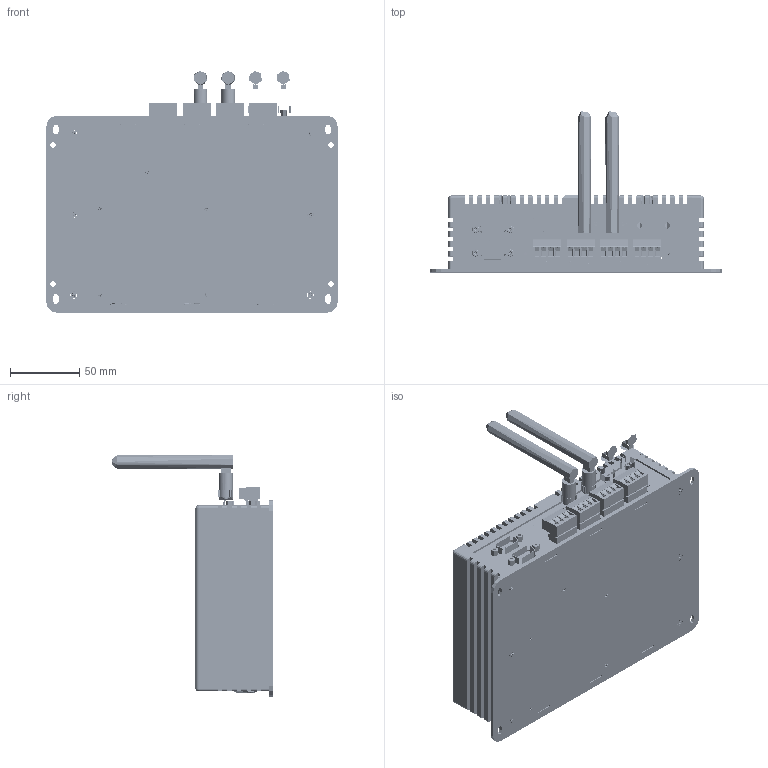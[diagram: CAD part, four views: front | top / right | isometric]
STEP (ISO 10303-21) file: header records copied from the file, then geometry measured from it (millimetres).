
FILE_DESCRIPTION(('STEP AP214'), '1');
FILE_NAME('EMB-PC-Mini', '', ('UNSPECIFIED'), ('UNSPECIFIED'), 'C3D Converter', 'C3D Toolkit', '');
FILE_SCHEMA(('AUTOMOTIVE_DESIGN { 1 0 10303 214 3 1 1}'));
Length unit declared in the file: millimetre
Bounding box: 210 x 116.03 x 174.19 mm (x, y, z)
Volume: 37743.7 mm3; surface area: 466136.1 mm2
Topology: 13 solids, 24 shells, 22382 faces, 61958 edges, 40185 vertices
Faces by surface type: plane 14778, cylinder 3699, extrusion 2760, bspline 485, torus 313, cone 276, sphere 71
Full cylindrical faces by diameter (mm): 0.1 x24, 0.2 x66, 0.3 x24, 0.4 x100, 0.56 x8, 0.6 x151, 0.7 x8, 0.8 x40, 0.88 x4, 0.9 x6, 0.95 x6, 1 x59, 1.1 x9, 1.2 x65, 1.28 x6, 1.38 x1, 1.4 x16, 1.48 x4, 1.5 x5, 1.6 x8, 1.8 x4, 1.9 x2, 2 x24, 2.06 x2, 2.4 x16, 2.5 x11, 2.55 x1, 2.7 x4, 2.8 x1, 3 x71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
Entity records: 1030446 total; most frequent: CARTESIAN_POINT 290581, ORIENTED_EDGE 123508, DIRECTION 101786, EDGE_CURVE 61774, VECTOR 48510, LINE 45750, VERTEX_POINT 40177, AXIS2_PLACEMENT_3D 26638
